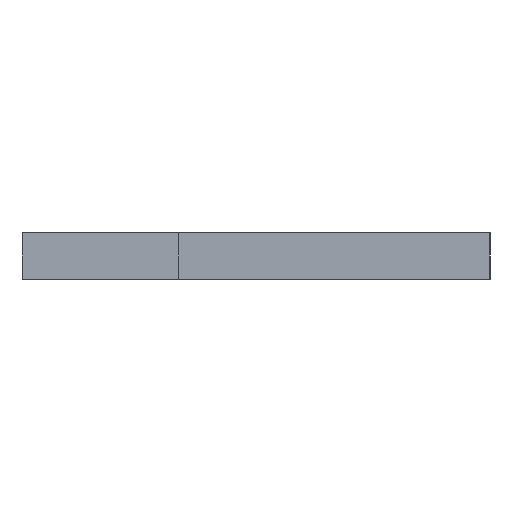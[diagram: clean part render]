
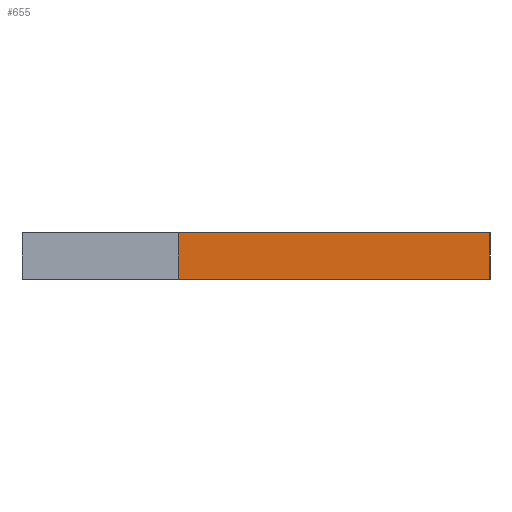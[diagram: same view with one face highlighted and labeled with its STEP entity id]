
A CAD part, left-side view. The second image highlights one B-rep face of the part: STEP entity #655.
In plain terms, the highlighted planar face has unit normal (-1, 0, 0).
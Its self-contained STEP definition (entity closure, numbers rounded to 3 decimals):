
#34=PLANE('',#724);
#67=FACE_OUTER_BOUND('',#100,.T.);
#100=EDGE_LOOP('',(#530,#531,#532,#533));
#165=LINE('',#1063,#236);
#166=LINE('',#1066,#237);
#167=LINE('',#1068,#238);
#168=LINE('',#1069,#239);
#236=VECTOR('',#877,10.);
#237=VECTOR('',#880,10.);
#238=VECTOR('',#881,10.);
#239=VECTOR('',#882,10.);
#326=VERTEX_POINT('',#1057);
#328=VERTEX_POINT('',#1061);
#329=VERTEX_POINT('',#1065);
#330=VERTEX_POINT('',#1067);
#413=EDGE_CURVE('',#326,#328,#165,.T.);
#414=EDGE_CURVE('',#326,#329,#166,.T.);
#415=EDGE_CURVE('',#330,#328,#167,.T.);
#416=EDGE_CURVE('',#329,#330,#168,.T.);
#530=ORIENTED_EDGE('',*,*,#414,.F.);
#531=ORIENTED_EDGE('',*,*,#413,.T.);
#532=ORIENTED_EDGE('',*,*,#415,.F.);
#533=ORIENTED_EDGE('',*,*,#416,.F.);
#655=ADVANCED_FACE('',(#67),#34,.T.);
#724=AXIS2_PLACEMENT_3D('',#1064,#878,#879);
#877=DIRECTION('',(0.,0.,1.));
#878=DIRECTION('center_axis',(-1.,0.,0.));
#879=DIRECTION('ref_axis',(0.,-1.,0.));
#880=DIRECTION('',(0.,1.,0.));
#881=DIRECTION('',(0.,-1.,0.));
#882=DIRECTION('',(0.,0.,1.));
#1057=CARTESIAN_POINT('',(-62.5,-15.,0.));
#1061=CARTESIAN_POINT('',(-62.5,-15.,3.));
#1063=CARTESIAN_POINT('',(-62.5,-15.,0.));
#1064=CARTESIAN_POINT('Origin',(-62.5,5.,0.));
#1065=CARTESIAN_POINT('',(-62.5,5.,0.));
#1066=CARTESIAN_POINT('',(-62.5,-15.,0.));
#1067=CARTESIAN_POINT('',(-62.5,5.,3.));
#1068=CARTESIAN_POINT('',(-62.5,-15.,3.));
#1069=CARTESIAN_POINT('',(-62.5,5.,0.));
